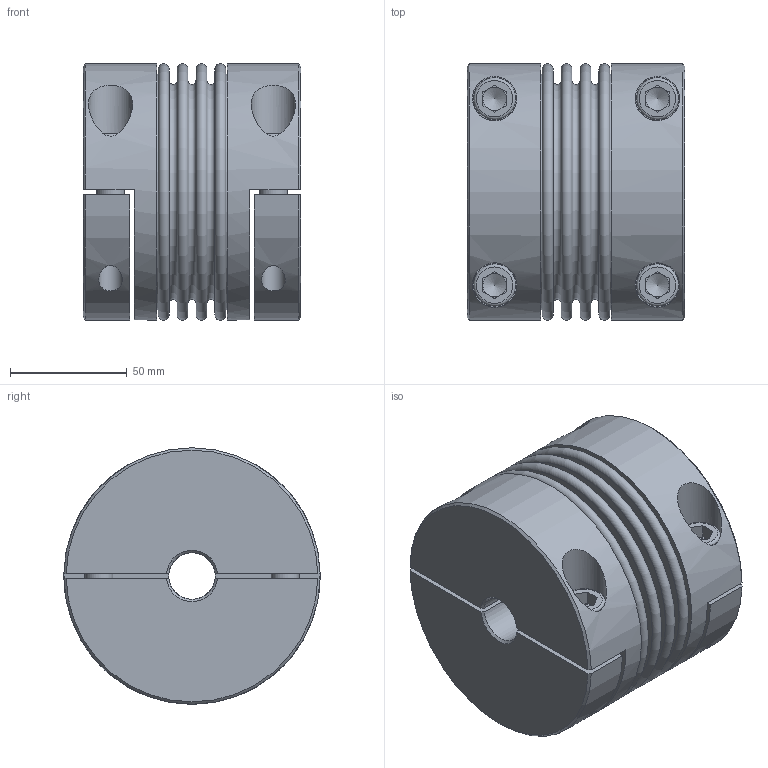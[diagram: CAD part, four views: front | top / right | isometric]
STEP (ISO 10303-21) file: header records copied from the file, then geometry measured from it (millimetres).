
FILE_DESCRIPTION( ( 'Unknown' ), '1' );
FILE_NAME( 'C:/Users/skarpstein/Desktop/KB4HC/KB4HC-300-94.stp', 'Unknown', ( 'Unknown' ), ( 'Unknown' ), 'PSStep 16.0.42', 'Unknown', ' ' );
FILE_SCHEMA( ( 'AUTOMOTIVE_DESIGN { 1 0 10303 214 1 1 1 1 }' ) );
Length unit declared in the file: millimetre
Products named in the file (7): Assem1; BK300_Standard_0; Socket Head Cap Screw_DIN_DIN 912 M12 x 40 --- 40N; KN4HC-300-D38; KN4HC-300-D50
Assembly tree (9 placements, depth 2):
  Assem1
    BK300_Standard_0
    Socket Head Cap Screw_DIN_DIN 912 M12 x 40 --- 40N  x4
    KN4HC-300-D38
    KN4HC-300-D38
    KN4HC-300-D50
    KN4HC-300-D50
Bounding box: 93.45 x 110 x 110 mm (x, y, z)
Volume: 553886.8 mm3; surface area: 168392.1 mm2
Topology: 9 solids, 9 shells, 170 faces, 358 edges, 228 vertices
Faces by surface type: plane 100, cylinder 32, torus 22, cone 16
Full cylindrical faces by diameter (mm): 10.106 x4, 12 x4, 12.5 x4, 18 x4, 19 x4, 20 x2, 99.8 x2, 101 x2, 110 x2
Entity records: 4368 total; most frequent: CARTESIAN_POINT 1194, DIRECTION 476, ORIENTED_EDGE 346, AXIS2_PLACEMENT_3D 210, EDGE_LOOP 188, EDGE_CURVE 173, VERTEX_POINT 146, FACE_OUTER_BOUND 145
